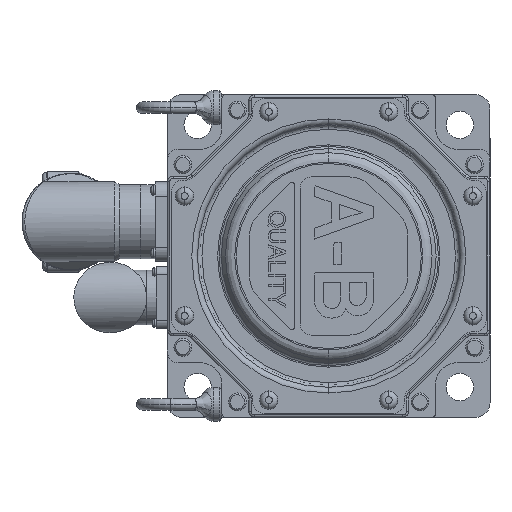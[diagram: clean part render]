
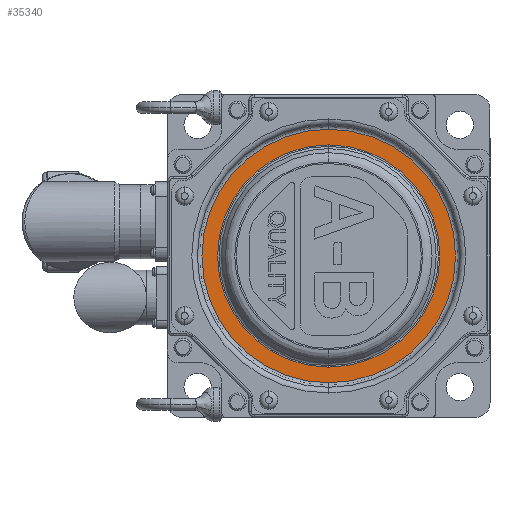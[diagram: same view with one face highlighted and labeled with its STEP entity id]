
A CAD part, left-side view. The second image highlights one B-rep face of the part: STEP entity #35340.
In plain terms, the highlighted planar face has unit normal (-1, 0, 0).
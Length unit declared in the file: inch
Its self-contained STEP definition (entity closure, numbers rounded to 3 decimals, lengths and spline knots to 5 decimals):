
#5942 = CIRCLE ( 'NONE', #32047, 1.94657 ) ;
#5946 = CIRCLE ( 'NONE', #32051, 2.221 ) ;
#6104 = CIRCLE ( 'NONE', #32518, 2.221 ) ;
#6105 = CIRCLE ( 'NONE', #32521, 1.94657 ) ;
#6787 = CARTESIAN_POINT ( 'NONE',  ( -12.6, 0., 0. ) ) ;
#6788 = DIRECTION ( 'NONE',  ( 1., 0., 0. ) ) ;
#6789 = DIRECTION ( 'NONE',  ( 0., 0., -1. ) ) ;
#6799 = CARTESIAN_POINT ( 'NONE',  ( -12.6, 0., 0. ) ) ;
#6800 = DIRECTION ( 'NONE',  ( -1., 0., 0. ) ) ;
#6801 = DIRECTION ( 'NONE',  ( 0., 0., -1. ) ) ;
#8328 = CARTESIAN_POINT ( 'NONE',  ( -12.6, 0., 0. ) ) ;
#8329 = DIRECTION ( 'NONE',  ( -1., 0., 0. ) ) ;
#8330 = DIRECTION ( 'NONE',  ( 0., 0., -1. ) ) ;
#8331 = CARTESIAN_POINT ( 'NONE',  ( -12.6, 0., 0. ) ) ;
#8332 = DIRECTION ( 'NONE',  ( 1., 0., 0. ) ) ;
#8333 = DIRECTION ( 'NONE',  ( 0., 0., -1. ) ) ;
#16176 = VERTEX_POINT ( 'NONE', #24220 ) ;
#16177 = VERTEX_POINT ( 'NONE', #24221 ) ;
#16180 = VERTEX_POINT ( 'NONE', #24224 ) ;
#16181 = VERTEX_POINT ( 'NONE', #24225 ) ;
#16369 = EDGE_LOOP ( 'NONE', ( #20170, #20171 ) ) ;
#16370 = EDGE_LOOP ( 'NONE', ( #20172, #20174 ) ) ;
#20170 = ORIENTED_EDGE ( 'NONE', *, *, #36799, .T. ) ;
#20171 = ORIENTED_EDGE ( 'NONE', *, *, #37235, .T. ) ;
#20172 = ORIENTED_EDGE ( 'NONE', *, *, #37236, .T. ) ;
#20174 = ORIENTED_EDGE ( 'NONE', *, *, #36795, .T. ) ;
#24220 = CARTESIAN_POINT ( 'NONE',  ( -12.6, 0., 1.94657 ) ) ;
#24221 = CARTESIAN_POINT ( 'NONE',  ( -12.6, 0., -1.94657 ) ) ;
#24224 = CARTESIAN_POINT ( 'NONE',  ( -12.6, 0., 2.221 ) ) ;
#24225 = CARTESIAN_POINT ( 'NONE',  ( -12.6, 0., -2.221 ) ) ;
#26437 = FACE_OUTER_BOUND ( 'NONE', #16369, .T. ) ;
#26442 = FACE_BOUND ( 'NONE', #16370, .T. ) ;
#26445 = AXIS2_PLACEMENT_3D ( 'NONE', #27892, #27893, #27894 ) ;
#27891 = PLANE ( 'NONE',  #26445 ) ;
#27892 = CARTESIAN_POINT ( 'NONE',  ( -12.6, 1.90545, 0. ) ) ;
#27893 = DIRECTION ( 'NONE',  ( 1., 0., 0. ) ) ;
#27894 = DIRECTION ( 'NONE',  ( 0., 0., -1. ) ) ;
#32047 = AXIS2_PLACEMENT_3D ( 'NONE', #6787, #6788, #6789 ) ;
#32051 = AXIS2_PLACEMENT_3D ( 'NONE', #6799, #6800, #6801 ) ;
#32518 = AXIS2_PLACEMENT_3D ( 'NONE', #8328, #8329, #8330 ) ;
#32521 = AXIS2_PLACEMENT_3D ( 'NONE', #8331, #8332, #8333 ) ;
#35340 = ADVANCED_FACE ( 'NONE', ( #26437, #26442 ), #27891, .F. ) ;
#36795 = EDGE_CURVE ( 'NONE', #16176, #16177, #5942, .T. ) ;
#36799 = EDGE_CURVE ( 'NONE', #16181, #16180, #5946, .T. ) ;
#37235 = EDGE_CURVE ( 'NONE', #16180, #16181, #6104, .T. ) ;
#37236 = EDGE_CURVE ( 'NONE', #16177, #16176, #6105, .T. ) ;
